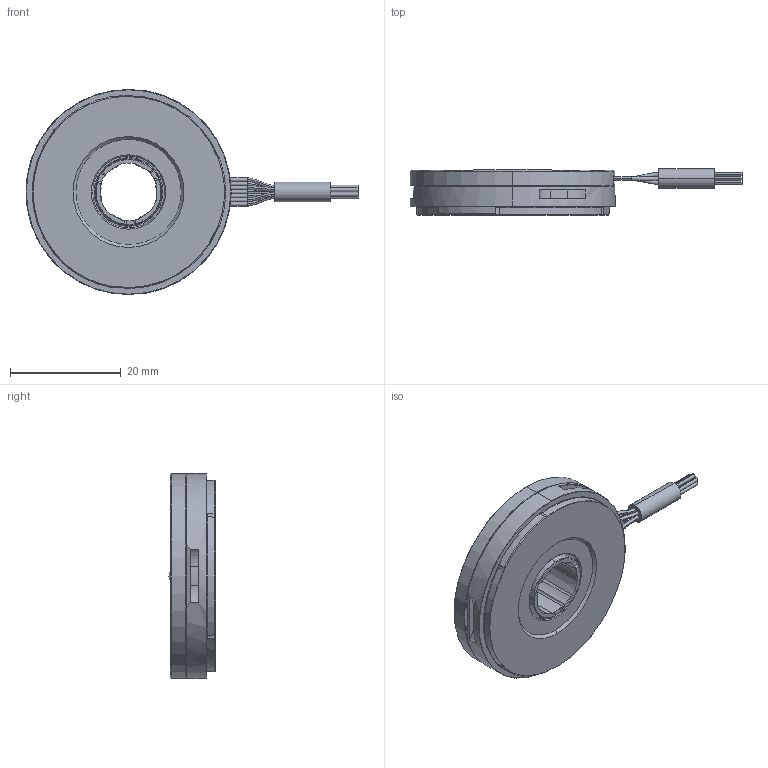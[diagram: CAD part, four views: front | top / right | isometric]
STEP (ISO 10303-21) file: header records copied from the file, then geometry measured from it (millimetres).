
FILE_DESCRIPTION (( 'STEP AP214' ), '1' );
FILE_NAME ('DS-37.STEP', '2025-03-24T09:17:55', ( '' ), ( '' ), 'SwSTEP 2.0', 'SolidWorks 2022', '' );
FILE_SCHEMA (( 'AUTOMOTIVE_DESIGN' ));
Length unit declared in the file: millimetre
Products named in the file (6): MP-03681_Low profile; DS-37-NG Core_Envelope; MP-03682; MP-03745; Cable-7-wires for DS-37-NG; DS-37
Assembly tree (5 placements, depth 3):
  DS-37
    DS-37-NG Core_Envelope
      MP-03745
    MP-03681_Low profile
    MP-03682
    Cable-7-wires for DS-37-NG
Bounding box: 59.9 x 8.35 x 37 mm (x, y, z)
Volume: 3405.1 mm3; surface area: 8205.6 mm2
Topology: 16 solids, 16 shells, 894 faces, 2215 edges, 1389 vertices
Faces by surface type: plane 255, bspline 213, cone 171, cylinder 151, torus 89, sphere 15
Entity records: 37844 total; most frequent: CARTESIAN_POINT 17438, ORIENTED_EDGE 4402, DIRECTION 3708, EDGE_CURVE 2201, AXIS2_PLACEMENT_3D 1512, VERTEX_POINT 1389, EDGE_LOOP 950, FACE_OUTER_BOUND 894
